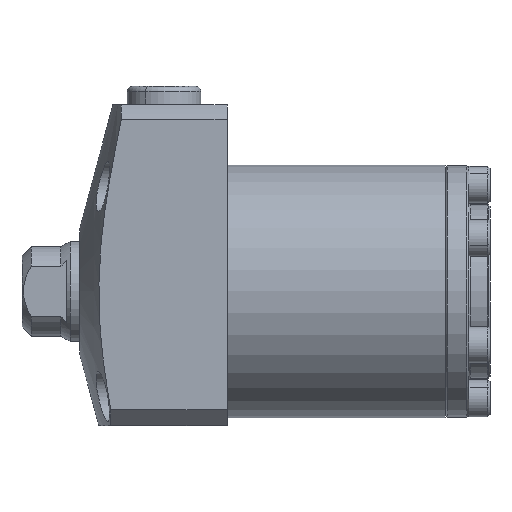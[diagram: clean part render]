
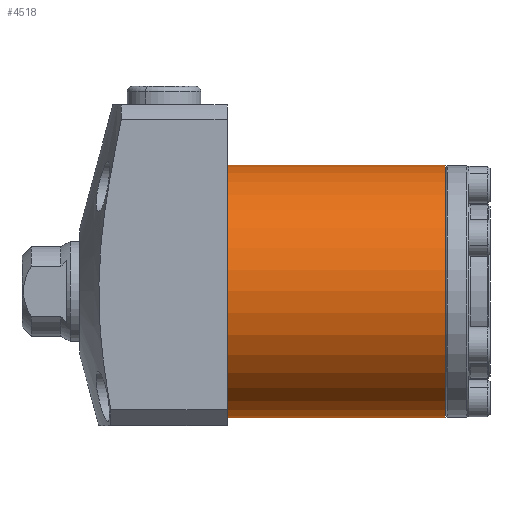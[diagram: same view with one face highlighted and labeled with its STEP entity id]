
A CAD part, left-side view. The second image highlights one B-rep face of the part: STEP entity #4518.
In plain terms, the highlighted cylindrical face has radius 24 mm (diameter 48 mm), a partial arc.
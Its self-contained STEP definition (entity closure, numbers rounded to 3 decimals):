
#180 = EDGE_CURVE ( 'NONE', #5288, #4341, #3208, .T. ) ;
#259 = VECTOR ( 'NONE', #3870, 1000. ) ;
#282 = DIRECTION ( 'NONE',  ( 0., 0., 1. ) ) ;
#367 = CARTESIAN_POINT ( 'NONE',  ( 0., -41.5, 24. ) ) ;
#468 = ORIENTED_EDGE ( 'NONE', *, *, #5272, .F. ) ;
#751 = AXIS2_PLACEMENT_3D ( 'NONE', #3053, #5246, #4826 ) ;
#1115 = VERTEX_POINT ( 'NONE', #3680 ) ;
#1125 = AXIS2_PLACEMENT_3D ( 'NONE', #5538, #2916, #282 ) ;
#1359 = EDGE_LOOP ( 'NONE', ( #3557, #2404, #3767, #468 ) ) ;
#1460 = DIRECTION ( 'NONE',  ( 0., 1., 0. ) ) ;
#1605 = CARTESIAN_POINT ( 'NONE',  ( 0., 0., -24. ) ) ;
#1862 = CARTESIAN_POINT ( 'NONE',  ( 0., -41.5, -24. ) ) ;
#2403 = EDGE_CURVE ( 'NONE', #5288, #3316, #5279, .T. ) ;
#2404 = ORIENTED_EDGE ( 'NONE', *, *, #180, .T. ) ;
#2429 = CYLINDRICAL_SURFACE ( 'NONE', #751, 24. ) ;
#2916 = DIRECTION ( 'NONE',  ( 0., 1., 0. ) ) ;
#3053 = CARTESIAN_POINT ( 'NONE',  ( 0., -41.5, 0. ) ) ;
#3208 = CIRCLE ( 'NONE', #1125, 24. ) ;
#3316 = VERTEX_POINT ( 'NONE', #1605 ) ;
#3317 = CIRCLE ( 'NONE', #3474, 24. ) ;
#3412 = EDGE_CURVE ( 'NONE', #4341, #1115, #3766, .T. ) ;
#3432 = CARTESIAN_POINT ( 'NONE',  ( 0., -41.5, 24. ) ) ;
#3474 = AXIS2_PLACEMENT_3D ( 'NONE', #4095, #1460, #4545 ) ;
#3557 = ORIENTED_EDGE ( 'NONE', *, *, #2403, .F. ) ;
#3654 = CARTESIAN_POINT ( 'NONE',  ( 0., -41.5, -24. ) ) ;
#3680 = CARTESIAN_POINT ( 'NONE',  ( 0., 0., 24. ) ) ;
#3766 = LINE ( 'NONE', #3432, #259 ) ;
#3767 = ORIENTED_EDGE ( 'NONE', *, *, #3412, .T. ) ;
#3870 = DIRECTION ( 'NONE',  ( 0., 1., 0. ) ) ;
#4095 = CARTESIAN_POINT ( 'NONE',  ( 0., 0., 0. ) ) ;
#4106 = VECTOR ( 'NONE', #4954, 1000. ) ;
#4341 = VERTEX_POINT ( 'NONE', #367 ) ;
#4518 = ADVANCED_FACE ( 'NONE', ( #4772 ), #2429, .T. ) ;
#4545 = DIRECTION ( 'NONE',  ( 0., 0., 1. ) ) ;
#4772 = FACE_OUTER_BOUND ( 'NONE', #1359, .T. ) ;
#4826 = DIRECTION ( 'NONE',  ( 0., 0., 1. ) ) ;
#4954 = DIRECTION ( 'NONE',  ( 0., 1., 0. ) ) ;
#5246 = DIRECTION ( 'NONE',  ( 0., 1., 0. ) ) ;
#5272 = EDGE_CURVE ( 'NONE', #3316, #1115, #3317, .T. ) ;
#5279 = LINE ( 'NONE', #1862, #4106 ) ;
#5288 = VERTEX_POINT ( 'NONE', #3654 ) ;
#5538 = CARTESIAN_POINT ( 'NONE',  ( 0., -41.5, 0. ) ) ;
